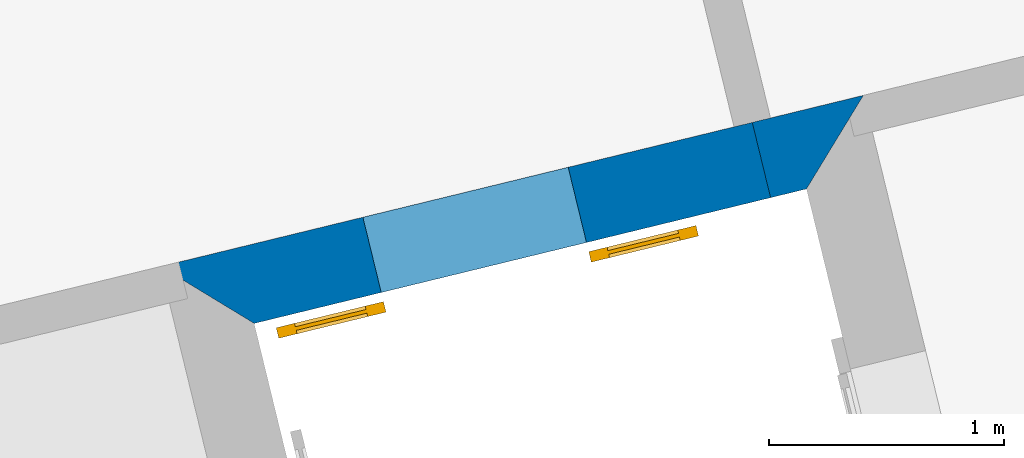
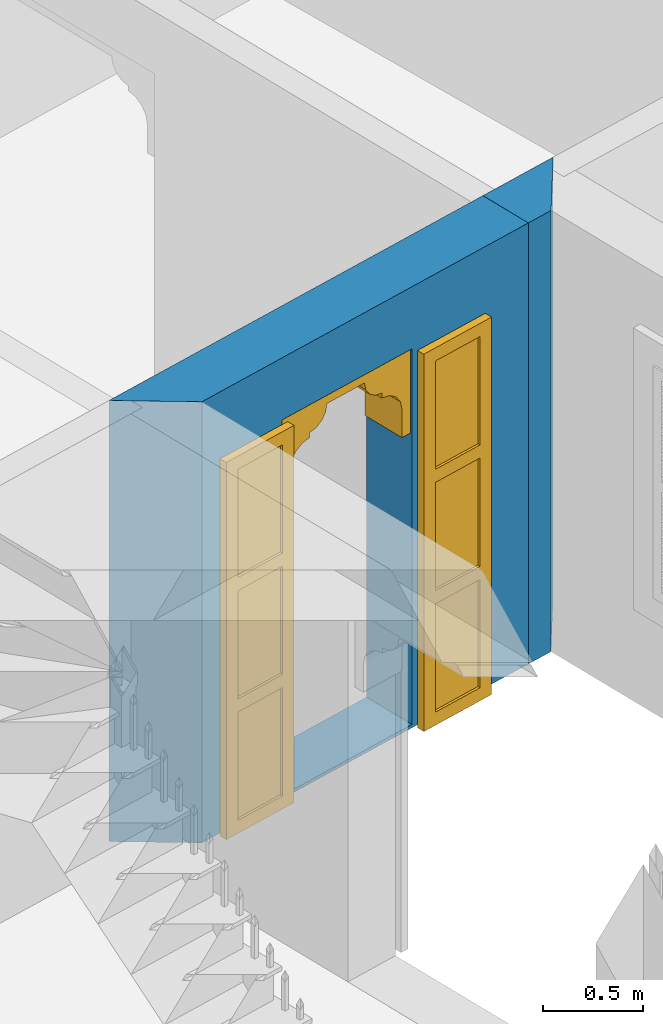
# One storey, part 10 of 15: 2 walls, 1 door, 1 opening.
"""IFC4 building model written with IfcOpenShell, lengths in metres."""

from ifc_helpers import new_model, si_unit, frame, origin, origin_with_axes, place, context, subcontext, project, spatial, polyline, outline, extrude, faceted_brep, source, transform, mapped, material, layer, layer_set, layer_usage, type_object, type_shapes, element, fill, save


model = new_model("IFC4")

# Units and contexts
model_context = context("Model", 3, world=origin_with_axes())
body_context = subcontext(model_context, "Body", "Model", "MODEL_VIEW")
ifc_project = project(units=[si_unit("PLANEANGLEUNIT", "RADIAN"), si_unit("MASSUNIT", "GRAM", prefix="KILO"), si_unit("FORCEUNIT", "NEWTON", prefix="KILO"), si_unit("LENGTHUNIT", "METRE"), si_unit("AREAUNIT", "SQUARE_METRE"), si_unit("VOLUMEUNIT", "CUBIC_METRE")], contexts=[model_context, model_context])

# Site, building, storey
site_placement = place(None, origin_with_axes())
site = spatial("IfcSite", under=ifc_project, at=site_placement, Name="Site plot-4", CompositionType="ELEMENT")
building_placement = place(None, origin_with_axes())
building = spatial("IfcBuilding", under=site, at=building_placement, Name="Building plot-4", CompositionType="ELEMENT")
storey_placement = place(None, origin_with_axes())
storey = spatial("IfcBuildingStorey", under=building, at=storey_placement, Name="plot-4 0", CompositionType="ELEMENT", Elevation=0.0)

# Wall, opening, door
ifc_material = material(Name="Masonry")
ifc_layer = layer(ifc_material, 0.33, ventilated=False)
ifc_layer_set = layer_set([ifc_layer], Name="exterior_0.08_0.25")
ifc_layer_usage = layer_usage(ifc_layer_set, "AXIS2", "POSITIVE", -0.25)
wall_type = type_object("IfcWallType", Name="exterior_0.08_0.25", PredefinedType="SOLIDWALL", material=ifc_layer_set)
wall_1_placement = place(storey_placement, frame((20.9644587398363, 15.0250800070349, 0.0), z_axis=(0.0, 0.0, 1.0), x_axis=(0.971605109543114, 0.236608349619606, 0.0)))
wall_1 = element("IfcWall", 1, at=wall_1_placement, inside=storey, type_object=wall_type, material=ifc_layer_usage, Name="exterior", context=body_context, shape_type="SweptSolid", body=[
    extrude(outline(polyline([(-0.0800000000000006, 0.0799999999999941), (0.250000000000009, -0.25000000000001), (2.51389333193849, -0.249999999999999), (2.51389333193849, 0.0799999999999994), (-0.0800000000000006, 0.0799999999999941)])), origin_with_axes(), (0.0, 0.0, 1.0), 2.7),
])
opening_placement = place(wall_1_placement, frame((0.806946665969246, 0.0, 0.02)))
opening = element("IfcOpeningElement", 2, at=opening_placement, cuts=wall_1, Name="My Opening", ObjectType="Opening", context=body_context, shape_type="SweptSolid", body=[
    extrude(outline(polyline([(0.0, -0.27), (0.9, -0.269999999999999), (0.899999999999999, 1.1), (-7.7715611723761e-16, 1.1), (0.0, -0.27)])), origin_with_axes(), (0.0, 0.0, 1.0), 2.3),
])
door_type = type_object("IfcDoorType", Name="arch-900x2300", OperationType="SINGLE_SWING_LEFT", PredefinedType="NOTDEFINED")
shared_shape = source(origin(), body_context, "Body", "Brep", [
    faceted_brep([(-0.08, -0.02, 0.08), (-0.08, -0.02, 0.0), (-0.39, -0.02, 0.0), (-0.39, -0.02, 0.08), (-0.47, -0.02, 0.0), (-0.47, -0.02, 0.08), (-0.39, -0.035, 0.08), (-0.08, -0.035, 0.08), (0.0, -0.02, 0.08), (0.0, -0.02, 0.0), (-0.08, -0.066, 0.0), (-0.39, -0.066, 0.0), (-0.47, -0.066, 0.0), (-0.47, -0.066, 0.08), (-0.39, -0.02, 0.743333), (-0.47, -0.02, 0.743333), (-0.39, -0.035, 0.743333), (-0.08, -0.035, 0.743333), (-0.08, -0.02, 0.743333), (0.0, -0.02, 0.743333), (0.0, -0.066, 0.08), (0.0, -0.066, 0.0), (-0.39, -0.066, 0.08), (-0.08, -0.066, 0.08), (-0.47, -0.066, 0.743333), (-0.39, -0.02, 0.823333), (-0.47, -0.02, 0.823333), (0.0, -0.066, 0.743333), (0.0, -0.02, 0.823333), (-0.08, -0.02, 0.823333), (-0.08, -0.051, 0.08), (-0.39, -0.051, 0.08), (-0.39, -0.066, 0.743333), (-0.47, -0.066, 0.823333), (-0.39, -0.02, 1.486667), (-0.47, -0.02, 1.486667), (0.0, -0.066, 0.823333), (-0.08, -0.066, 0.743333), (0.0, -0.02, 1.486667), (-0.08, -0.02, 1.486667), (-0.08, -0.051, 0.743333), (-0.39, -0.051, 0.743333), (-0.39, -0.066, 0.823333), (-0.47, -0.066, 1.486667), (-0.39, -0.035, 0.823333), (-0.08, -0.035, 0.823333), (-0.39, -0.035, 1.486667), (-0.39, -0.02, 1.566667), (-0.47, -0.02, 1.566667), (0.0, -0.066, 1.486667), (-0.08, -0.066, 0.823333), (-0.08, -0.035, 1.486667), (0.0, -0.02, 1.566667), (-0.08, -0.02, 1.566667), (-0.39, -0.066, 1.486667), (-0.47, -0.066, 1.566667), (-0.39, -0.02, 2.23), (-0.47, -0.02, 2.23), (0.0, -0.066, 1.566667), (-0.08, -0.066, 1.486667), (0.0, -0.02, 2.23), (-0.08, -0.02, 2.23), (-0.08, -0.051, 0.823333), (-0.39, -0.051, 0.823333), (-0.39, -0.051, 1.486667), (-0.39, -0.066, 1.566667), (-0.47, -0.066, 2.23), (-0.39, -0.035, 1.566667), (-0.08, -0.035, 1.566667), (-0.39, -0.035, 2.23), (-0.39, -0.02, 2.31), (-0.47, -0.02, 2.31), (0.0, -0.066, 2.23), (-0.08, -0.066, 1.566667), (-0.08, -0.051, 1.486667), (-0.08, -0.035, 2.23), (0.0, -0.02, 2.31), (-0.08, -0.02, 2.31), (-0.39, -0.066, 2.23), (-0.47, -0.066, 2.31), (-0.39, -0.066, 2.31), (0.0, -0.066, 2.31), (-0.08, -0.066, 2.23), (-0.08, -0.066, 2.31), (-0.08, -0.051, 1.566667), (-0.39, -0.051, 1.566667), (-0.39, -0.051, 2.23), (-0.08, -0.051, 2.23), (1.29, -0.02, 0.08), (1.29, -0.02, 0.0), (0.98, -0.02, 0.0), (0.98, -0.02, 0.08), (1.37, -0.02, 0.08), (1.37, -0.02, 0.0), (0.98, -0.035, 0.08), (1.29, -0.035, 0.08), (0.9, -0.02, 0.0), (0.9, -0.02, 0.08), (1.29, -0.066, 0.0), (0.98, -0.066, 0.0), (1.37, -0.066, 0.08), (1.37, -0.066, 0.0), (1.37, -0.02, 0.743333), (1.29, -0.02, 0.743333), (1.29, -0.035, 0.743333), (0.98, -0.035, 0.743333), (0.98, -0.02, 0.743333), (0.9, -0.02, 0.743333), (0.9, -0.066, 0.0), (0.9, -0.066, 0.08), (0.98, -0.066, 0.08), (1.29, -0.066, 0.08), (1.37, -0.066, 0.743333), (1.37, -0.02, 0.823333), (1.29, -0.02, 0.823333), (0.9, -0.066, 0.743333), (0.98, -0.02, 0.823333), (0.9, -0.02, 0.823333), (1.29, -0.051, 0.08), (0.98, -0.051, 0.08), (1.29, -0.066, 0.743333), (1.37, -0.066, 0.823333), (1.37, -0.02, 1.486667), (1.29, -0.02, 1.486667), (0.9, -0.066, 0.823333), (0.98, -0.066, 0.743333), (0.98, -0.02, 1.486667), (0.9, -0.02, 1.486667), (0.98, -0.051, 0.743333), (1.29, -0.051, 0.743333), (1.29, -0.066, 0.823333), (1.37, -0.066, 1.486667), (0.98, -0.035, 0.823333), (1.29, -0.035, 0.823333), (1.29, -0.035, 1.486667), (1.37, -0.02, 1.566667), (1.29, -0.02, 1.566667), (0.9, -0.066, 1.486667), (0.98, -0.066, 0.823333), (0.98, -0.035, 1.486667), (0.98, -0.02, 1.566667), (0.9, -0.02, 1.566667), (1.29, -0.066, 1.486667), (1.37, -0.066, 1.566667), (1.37, -0.02, 2.23), (1.29, -0.02, 2.23), (0.9, -0.066, 1.566667), (0.98, -0.066, 1.486667), (0.98, -0.02, 2.23), (0.9, -0.02, 2.23), (1.29, -0.051, 0.823333), (0.98, -0.051, 0.823333), (1.29, -0.051, 1.486667), (1.29, -0.066, 1.566667), (1.37, -0.066, 2.23), (0.98, -0.035, 1.566667), (1.29, -0.035, 1.566667), (1.29, -0.035, 2.23), (1.37, -0.02, 2.31), (1.29, -0.02, 2.31), (0.9, -0.066, 2.23), (0.98, -0.066, 1.566667), (0.98, -0.051, 1.486667), (0.98, -0.035, 2.23), (0.98, -0.02, 2.31), (0.9, -0.02, 2.31), (1.29, -0.066, 2.23), (1.37, -0.066, 2.31), (1.29, -0.066, 2.31), (0.9, -0.066, 2.31), (0.98, -0.066, 2.23), (0.98, -0.066, 2.31), (1.29, -0.051, 1.566667), (0.98, -0.051, 1.566667), (1.29, -0.051, 2.23), (0.98, -0.051, 2.23), (0.9, 0.03, 1.78), (0.9, 0.03, 1.95), (0.84, 0.03, 1.95), (0.84, 0.03, 1.78), (0.84, 0.3, 1.95), (0.84, 0.3, 1.78), (0.9, 0.03, 2.12), (0.829, 0.03, 2.004), (0.9, 0.3, 1.78), (0.9, 0.3, 1.95), (0.829, 0.3, 2.004), (0.799, 0.03, 2.049), (0.9, 0.3, 2.12), (0.799, 0.3, 2.049), (0.754, 0.03, 2.079), (0.9, 0.3, 2.29), (0.9, 0.03, 2.29), (0.754, 0.3, 2.079), (0.7, 0.03, 2.09), (0.7, 0.03, 2.12), (0.654, 0.03, 2.129), (0.58, 0.3, 2.29), (0.58, 0.03, 2.29), (0.7, 0.3, 2.12), (0.654, 0.3, 2.129), (0.7, 0.3, 2.09), (0.615, 0.03, 2.155), (0.589, 0.3, 2.194), (0.58, 0.3, 2.24), (0.58, 0.03, 2.24), (0.589, 0.03, 2.194), (0.615, 0.3, 2.155), (0.06, 0.03, 1.78), (0.06, 0.03, 1.95), (0.0, 0.03, 1.95), (0.0, 0.03, 1.78), (0.06, 0.3, 1.78), (0.06, 0.3, 1.95), (0.071, 0.03, 2.004), (0.0, 0.03, 2.12), (0.0, 0.3, 1.95), (0.0, 0.3, 1.78), (0.071, 0.3, 2.004), (0.101, 0.03, 2.049), (0.0, 0.3, 2.12), (0.101, 0.3, 2.049), (0.146, 0.03, 2.079), (0.0, 0.03, 2.29), (0.0, 0.3, 2.29), (0.146, 0.3, 2.079), (0.2, 0.03, 2.12), (0.2, 0.03, 2.09), (0.246, 0.03, 2.129), (0.32, 0.03, 2.29), (0.32, 0.3, 2.29), (0.246, 0.3, 2.129), (0.2, 0.3, 2.12), (0.2, 0.3, 2.09), (0.285, 0.03, 2.155), (0.32, 0.3, 2.24), (0.311, 0.3, 2.194), (0.311, 0.03, 2.194), (0.32, 0.03, 2.24), (0.285, 0.3, 2.155)], [[[0, 1, 2, 3]], [[4, 5, 3, 2]], [[0, 3, 6, 7]], [[1, 0, 8, 9]], [[2, 1, 10, 11]], [[5, 4, 12, 13]], [[14, 3, 5, 15]], [[4, 2, 11, 12]], [[3, 14, 16, 6]], [[6, 16, 17, 7]], [[18, 0, 7, 17]], [[0, 18, 19, 8]], [[9, 8, 20, 21]], [[1, 9, 21, 10]], [[22, 11, 10, 23]], [[13, 12, 11, 22]], [[15, 5, 13, 24]], [[25, 14, 15, 26]], [[14, 18, 17, 16]], [[8, 19, 27, 20]], [[28, 19, 18, 29]], [[23, 10, 21, 20]], [[22, 23, 30, 31]], [[22, 32, 24, 13]], [[26, 15, 24, 33]], [[29, 18, 14, 25]], [[34, 25, 26, 35]], [[19, 28, 36, 27]], [[20, 27, 37, 23]], [[38, 28, 29, 39]], [[23, 37, 40, 30]], [[41, 31, 30, 40]], [[32, 22, 31, 41]], [[32, 42, 33, 24]], [[35, 26, 33, 43]], [[29, 25, 44, 45]], [[25, 34, 46, 44]], [[47, 34, 35, 48]], [[28, 38, 49, 36]], [[27, 36, 50, 37]], [[39, 29, 45, 51]], [[52, 38, 39, 53]], [[37, 32, 41, 40]], [[37, 50, 42, 32]], [[42, 54, 43, 33]], [[48, 35, 43, 55]], [[44, 46, 51, 45]], [[34, 39, 51, 46]], [[34, 47, 53, 39]], [[56, 47, 48, 57]], [[38, 52, 58, 49]], [[36, 49, 59, 50]], [[60, 52, 53, 61]], [[42, 50, 62, 63]], [[54, 42, 63, 64]], [[54, 65, 55, 43]], [[57, 48, 55, 66]], [[53, 47, 67, 68]], [[47, 56, 69, 67]], [[70, 56, 57, 71]], [[52, 60, 72, 58]], [[49, 58, 73, 59]], [[50, 59, 74, 62]], [[61, 53, 68, 75]], [[76, 60, 61, 77]], [[64, 63, 62, 74]], [[59, 54, 64, 74]], [[65, 54, 59, 73]], [[65, 78, 66, 55]], [[71, 57, 66, 79]], [[67, 69, 75, 68]], [[56, 61, 75, 69]], [[77, 61, 56, 70]], [[70, 71, 79, 80]], [[60, 76, 81, 72]], [[58, 72, 82, 73]], [[76, 77, 83, 81]], [[65, 73, 84, 85]], [[78, 65, 85, 86]], [[78, 80, 79, 66]], [[77, 70, 80, 83]], [[72, 81, 83, 82]], [[73, 82, 87, 84]], [[86, 85, 84, 87]], [[82, 78, 86, 87]], [[82, 83, 80, 78]], [[88, 89, 90, 91]], [[89, 88, 92, 93]], [[94, 95, 88, 91]], [[96, 97, 91, 90]], [[98, 99, 90, 89]], [[100, 101, 93, 92]], [[102, 92, 88, 103]], [[101, 98, 89, 93]], [[95, 104, 103, 88]], [[94, 105, 104, 95]], [[105, 94, 91, 106]], [[97, 107, 106, 91]], [[108, 109, 97, 96]], [[99, 108, 96, 90]], [[110, 99, 98, 111]], [[111, 98, 101, 100]], [[112, 100, 92, 102]], [[113, 102, 103, 114]], [[104, 105, 106, 103]], [[109, 115, 107, 97]], [[116, 106, 107, 117]], [[109, 108, 99, 110]], [[118, 119, 110, 111]], [[100, 112, 120, 111]], [[121, 112, 102, 113]], [[114, 103, 106, 116]], [[122, 113, 114, 123]], [[115, 124, 117, 107]], [[110, 125, 115, 109]], [[126, 116, 117, 127]], [[119, 128, 125, 110]], [[128, 119, 118, 129]], [[129, 118, 111, 120]], [[112, 121, 130, 120]], [[131, 121, 113, 122]], [[132, 133, 114, 116]], [[133, 134, 123, 114]], [[135, 122, 123, 136]], [[124, 137, 127, 117]], [[125, 138, 124, 115]], [[139, 132, 116, 126]], [[140, 126, 127, 141]], [[128, 129, 120, 125]], [[120, 130, 138, 125]], [[121, 131, 142, 130]], [[143, 131, 122, 135]], [[132, 139, 134, 133]], [[134, 139, 126, 123]], [[126, 140, 136, 123]], [[144, 135, 136, 145]], [[137, 146, 141, 127]], [[138, 147, 137, 124]], [[148, 140, 141, 149]], [[150, 151, 138, 130]], [[152, 150, 130, 142]], [[131, 143, 153, 142]], [[154, 143, 135, 144]], [[155, 156, 136, 140]], [[156, 157, 145, 136]], [[158, 144, 145, 159]], [[146, 160, 149, 141]], [[147, 161, 146, 137]], [[151, 162, 147, 138]], [[163, 155, 140, 148]], [[164, 148, 149, 165]], [[162, 151, 150, 152]], [[162, 152, 142, 147]], [[161, 147, 142, 153]], [[143, 154, 166, 153]], [[167, 154, 144, 158]], [[155, 163, 157, 156]], [[157, 163, 148, 145]], [[159, 145, 148, 164]], [[168, 167, 158, 159]], [[160, 169, 165, 149]], [[161, 170, 160, 146]], [[169, 171, 164, 165]], [[172, 173, 161, 153]], [[174, 172, 153, 166]], [[154, 167, 168, 166]], [[171, 168, 159, 164]], [[170, 171, 169, 160]], [[173, 175, 170, 161]], [[175, 173, 172, 174]], [[175, 174, 166, 170]], [[166, 168, 171, 170]], [[176, 177, 178, 179]], [[180, 181, 179, 178]], [[177, 182, 183, 178]], [[177, 176, 184, 185]], [[181, 184, 176, 179]], [[181, 180, 185, 184]], [[186, 180, 178, 183]], [[182, 187, 183]], [[182, 177, 185, 188]], [[180, 186, 188, 185]], [[189, 186, 183, 187]], [[182, 190, 187]], [[188, 191, 192, 182]], [[188, 186, 189]], [[193, 189, 187, 190]], [[194, 190, 182, 195]], [[182, 192, 196, 195]], [[192, 191, 197, 198]], [[199, 200, 191, 188]], [[188, 189, 193]], [[201, 193, 190, 194]], [[199, 201, 194, 195]], [[200, 199, 195, 196]], [[192, 202, 196]], [[191, 203, 204, 197]], [[192, 198, 205, 206]], [[207, 191, 200]], [[199, 188, 193, 201]], [[207, 200, 196, 202]], [[192, 206, 202]], [[204, 203, 206, 205]], [[203, 191, 207]], [[203, 207, 202, 206]], [[208, 209, 210, 211]], [[209, 208, 212, 213]], [[209, 214, 215, 210]], [[211, 210, 216, 217]], [[208, 211, 217, 212]], [[217, 216, 213, 212]], [[214, 209, 213, 218]], [[214, 219, 215]], [[220, 216, 210, 215]], [[216, 220, 218, 213]], [[219, 214, 218, 221]], [[219, 222, 215]], [[215, 223, 224, 220]], [[221, 218, 220]], [[222, 219, 221, 225]], [[226, 215, 222, 227]], [[226, 228, 223, 215]], [[229, 230, 224, 223]], [[220, 224, 231, 232]], [[225, 221, 220]], [[227, 222, 225, 233]], [[226, 227, 233, 232]], [[228, 226, 232, 231]], [[228, 234, 223]], [[230, 235, 236, 224]], [[237, 238, 229, 223]], [[231, 224, 239]], [[233, 225, 220, 232]], [[234, 228, 231, 239]], [[234, 237, 223]], [[238, 237, 236, 235]], [[239, 224, 236]], [[237, 234, 239, 236]], [[238, 235, 204, 205]], [[235, 230, 197, 204]], [[229, 238, 205, 198]], [[230, 229, 198, 197]]]),
])
type_shapes(door_type, [shared_shape])
door_placement = place(storey_placement, frame((21.8123764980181, 14.9536769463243, 0.02), z_axis=(0.0, 0.0, 1.0), x_axis=(0.874444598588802, 0.212947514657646, 0.0)))
door = element("IfcDoor", 3, at=door_placement, inside=storey, type_object=door_type, Name="living sahn door", OverallHeight=2.3, OverallWidth=0.9, context=body_context, shape_type="MappedRepresentation", body=[
    mapped(shared_shape, transform((0.0, 0.0, 0.0), scale=1.0)),
])
fill(opening, door)

# Wall
wall_2_placement = place(storey_placement, frame((23.4069703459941, 15.6198881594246, 0.0), z_axis=(0.0, 0.0, 1.0), x_axis=(0.971605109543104, 0.236608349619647, 0.0)))
element("IfcWall", 4, at=wall_2_placement, inside=storey, type_object=wall_type, material=ifc_layer_usage, Name="exterior", context=body_context, shape_type="SweptSolid", body=[
    extrude(outline(polyline([(3.34444944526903e-15, 0.0799999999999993), (-1.1697544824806e-14, -0.249999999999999), (0.157279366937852, -0.250000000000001), (0.487279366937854, 0.0799999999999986), (3.34444944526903e-15, 0.0799999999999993)])), origin_with_axes(), (0.0, 0.0, 1.0), 2.7),
])

save(model, "model.ifc")
